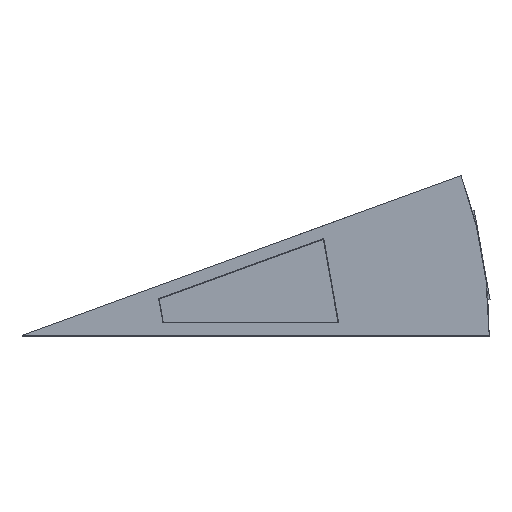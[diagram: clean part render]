
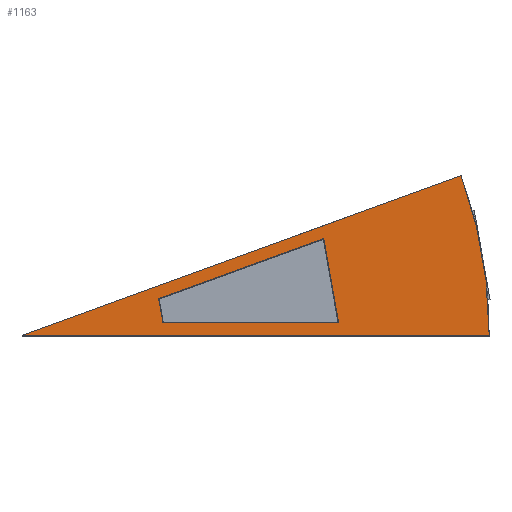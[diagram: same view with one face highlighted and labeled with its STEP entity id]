
A CAD part, top view. The second image highlights one B-rep face of the part: STEP entity #1163.
In plain terms, the highlighted planar face has unit normal (0, 0, 1).
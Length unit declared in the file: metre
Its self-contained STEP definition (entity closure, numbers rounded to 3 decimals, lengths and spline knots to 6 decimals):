
#103 = PLANE('',#104);
#104 = AXIS2_PLACEMENT_3D('',#105,#106,#107);
#105 = CARTESIAN_POINT('',(0.,0.,
    -4.137525));
#106 = DIRECTION('',(-0.,-1.,-0.));
#107 = DIRECTION('',(0.,0.,-1.));
#129 = PLANE('',#130);
#130 = AXIS2_PLACEMENT_3D('',#131,#132,#133);
#131 = CARTESIAN_POINT('',(0.,0.,
    -4.137525));
#132 = DIRECTION('',(0.342,-0.94,-0.));
#133 = DIRECTION('',(0.,0.,-1.));
#247 = VERTEX_POINT('',#248);
#248 = CARTESIAN_POINT('',(21.613469,0.,
    13.620089));
#262 = CYLINDRICAL_SURFACE('',#263,21.613469);
#263 = AXIS2_PLACEMENT_3D('',#264,#265,#266);
#264 = CARTESIAN_POINT('',(0.,0.,-15.6));
#265 = DIRECTION('',(0.,0.,1.));
#266 = DIRECTION('',(1.,0.,-0.));
#274 = EDGE_CURVE('',#247,#275,#277,.T.);
#275 = VERTEX_POINT('',#276);
#276 = CARTESIAN_POINT('',(0.,0.,13.620089));
#277 = SURFACE_CURVE('',#278,(#282,#289),.PCURVE_S1.);
#278 = LINE('',#279,#280);
#279 = CARTESIAN_POINT('',(19.313469,0.,
    13.620089));
#280 = VECTOR('',#281,1.);
#281 = DIRECTION('',(-1.,0.,0.));
#282 = PCURVE('',#103,#283);
#283 = DEFINITIONAL_REPRESENTATION('',(#284),#288);
#284 = LINE('',#285,#286);
#285 = CARTESIAN_POINT('',(-17.758,19.313));
#286 = VECTOR('',#287,1.);
#287 = DIRECTION('',(0.,-1.));
#288 = ( GEOMETRIC_REPRESENTATION_CONTEXT(2) 
PARAMETRIC_REPRESENTATION_CONTEXT() REPRESENTATION_CONTEXT('2D SPACE',''
  ) );
#289 = PCURVE('',#290,#295);
#290 = PLANE('',#291);
#291 = AXIS2_PLACEMENT_3D('',#292,#293,#294);
#292 = CARTESIAN_POINT('',(0.,0.,13.620089));
#293 = DIRECTION('',(0.,0.,1.));
#294 = DIRECTION('',(1.,0.,-0.));
#295 = DEFINITIONAL_REPRESENTATION('',(#296),#300);
#296 = LINE('',#297,#298);
#297 = CARTESIAN_POINT('',(19.313,0.));
#298 = VECTOR('',#299,1.);
#299 = DIRECTION('',(-1.,0.));
#300 = ( GEOMETRIC_REPRESENTATION_CONTEXT(2) 
PARAMETRIC_REPRESENTATION_CONTEXT() REPRESENTATION_CONTEXT('2D SPACE',''
  ) );
#515 = VERTEX_POINT('',#516);
#516 = CARTESIAN_POINT('',(20.310017,7.392242,
    13.620089));
#537 = EDGE_CURVE('',#515,#275,#538,.T.);
#538 = SURFACE_CURVE('',#539,(#543,#550),.PCURVE_S1.);
#539 = LINE('',#540,#541);
#540 = CARTESIAN_POINT('',(18.148724,6.605595,
    13.620089));
#541 = VECTOR('',#542,1.);
#542 = DIRECTION('',(-0.94,-0.342,0.));
#543 = PCURVE('',#129,#544);
#544 = DEFINITIONAL_REPRESENTATION('',(#545),#549);
#545 = LINE('',#546,#547);
#546 = CARTESIAN_POINT('',(-17.758,19.313));
#547 = VECTOR('',#548,1.);
#548 = DIRECTION('',(0.,-1.));
#549 = ( GEOMETRIC_REPRESENTATION_CONTEXT(2) 
PARAMETRIC_REPRESENTATION_CONTEXT() REPRESENTATION_CONTEXT('2D SPACE',''
  ) );
#550 = PCURVE('',#290,#551);
#551 = DEFINITIONAL_REPRESENTATION('',(#552),#556);
#552 = LINE('',#553,#554);
#553 = CARTESIAN_POINT('',(18.149,6.606));
#554 = VECTOR('',#555,1.);
#555 = DIRECTION('',(-0.94,-0.342));
#556 = ( GEOMETRIC_REPRESENTATION_CONTEXT(2) 
PARAMETRIC_REPRESENTATION_CONTEXT() REPRESENTATION_CONTEXT('2D SPACE',''
  ) );
#1163 = ADVANCED_FACE('',(#1164,#1190),#290,.T.);
#1164 = FACE_BOUND('',#1165,.T.);
#1165 = EDGE_LOOP('',(#1166,#1188,#1189));
#1166 = ORIENTED_EDGE('',*,*,#1167,.T.);
#1167 = EDGE_CURVE('',#247,#515,#1168,.T.);
#1168 = SURFACE_CURVE('',#1169,(#1174,#1181),.PCURVE_S1.);
#1169 = CIRCLE('',#1170,21.613469);
#1170 = AXIS2_PLACEMENT_3D('',#1171,#1172,#1173);
#1171 = CARTESIAN_POINT('',(0.,0.,13.620089));
#1172 = DIRECTION('',(0.,0.,1.));
#1173 = DIRECTION('',(1.,0.,-0.));
#1174 = PCURVE('',#290,#1175);
#1175 = DEFINITIONAL_REPRESENTATION('',(#1176),#1180);
#1176 = CIRCLE('',#1177,21.613469);
#1177 = AXIS2_PLACEMENT_2D('',#1178,#1179);
#1178 = CARTESIAN_POINT('',(0.,0.));
#1179 = DIRECTION('',(1.,0.));
#1180 = ( GEOMETRIC_REPRESENTATION_CONTEXT(2) 
PARAMETRIC_REPRESENTATION_CONTEXT() REPRESENTATION_CONTEXT('2D SPACE',''
  ) );
#1181 = PCURVE('',#262,#1182);
#1182 = DEFINITIONAL_REPRESENTATION('',(#1183),#1187);
#1183 = LINE('',#1184,#1185);
#1184 = CARTESIAN_POINT('',(0.,29.22));
#1185 = VECTOR('',#1186,1.);
#1186 = DIRECTION('',(1.,0.));
#1187 = ( GEOMETRIC_REPRESENTATION_CONTEXT(2) 
PARAMETRIC_REPRESENTATION_CONTEXT() REPRESENTATION_CONTEXT('2D SPACE',''
  ) );
#1188 = ORIENTED_EDGE('',*,*,#537,.T.);
#1189 = ORIENTED_EDGE('',*,*,#274,.F.);
#1190 = FACE_BOUND('',#1191,.T.);
#1191 = EDGE_LOOP('',(#1192,#1222,#1250,#1278));
#1192 = ORIENTED_EDGE('',*,*,#1193,.F.);
#1193 = EDGE_CURVE('',#1194,#1196,#1198,.T.);
#1194 = VERTEX_POINT('',#1195);
#1195 = CARTESIAN_POINT('',(6.517606,0.5741,13.620089));
#1196 = VERTEX_POINT('',#1197);
#1197 = CARTESIAN_POINT('',(14.64659,0.5741,13.620089));
#1198 = SURFACE_CURVE('',#1199,(#1203,#1210),.PCURVE_S1.);
#1199 = LINE('',#1200,#1201);
#1200 = CARTESIAN_POINT('',(7.042043,0.5741,13.620089));
#1201 = VECTOR('',#1202,1.);
#1202 = DIRECTION('',(1.,0.,0.));
#1203 = PCURVE('',#290,#1204);
#1204 = DEFINITIONAL_REPRESENTATION('',(#1205),#1209);
#1205 = LINE('',#1206,#1207);
#1206 = CARTESIAN_POINT('',(7.042,0.574));
#1207 = VECTOR('',#1208,1.);
#1208 = DIRECTION('',(1.,0.));
#1209 = ( GEOMETRIC_REPRESENTATION_CONTEXT(2) 
PARAMETRIC_REPRESENTATION_CONTEXT() REPRESENTATION_CONTEXT('2D SPACE',''
  ) );
#1210 = PCURVE('',#1211,#1216);
#1211 = PLANE('',#1212);
#1212 = AXIS2_PLACEMENT_3D('',#1213,#1214,#1215);
#1213 = CARTESIAN_POINT('',(6.517606,0.5741,13.220089));
#1214 = DIRECTION('',(0.,1.,0.));
#1215 = DIRECTION('',(1.,0.,0.));
#1216 = DEFINITIONAL_REPRESENTATION('',(#1217),#1221);
#1217 = LINE('',#1218,#1219);
#1218 = CARTESIAN_POINT('',(0.524,-0.4));
#1219 = VECTOR('',#1220,1.);
#1220 = DIRECTION('',(1.,0.));
#1221 = ( GEOMETRIC_REPRESENTATION_CONTEXT(2) 
PARAMETRIC_REPRESENTATION_CONTEXT() REPRESENTATION_CONTEXT('2D SPACE',''
  ) );
#1222 = ORIENTED_EDGE('',*,*,#1223,.F.);
#1223 = EDGE_CURVE('',#1224,#1194,#1226,.T.);
#1224 = VERTEX_POINT('',#1225);
#1225 = CARTESIAN_POINT('',(6.3209,1.689675,13.620089
    ));
#1226 = SURFACE_CURVE('',#1227,(#1231,#1238),.PCURVE_S1.);
#1227 = LINE('',#1228,#1229);
#1228 = CARTESIAN_POINT('',(6.411967,1.173205,
    13.620089));
#1229 = VECTOR('',#1230,1.);
#1230 = DIRECTION('',(0.174,-0.985,0.));
#1231 = PCURVE('',#290,#1232);
#1232 = DEFINITIONAL_REPRESENTATION('',(#1233),#1237);
#1233 = LINE('',#1234,#1235);
#1234 = CARTESIAN_POINT('',(6.412,1.173));
#1235 = VECTOR('',#1236,1.);
#1236 = DIRECTION('',(0.174,-0.985));
#1237 = ( GEOMETRIC_REPRESENTATION_CONTEXT(2) 
PARAMETRIC_REPRESENTATION_CONTEXT() REPRESENTATION_CONTEXT('2D SPACE',''
  ) );
#1238 = PCURVE('',#1239,#1244);
#1239 = PLANE('',#1240);
#1240 = AXIS2_PLACEMENT_3D('',#1241,#1242,#1243);
#1241 = CARTESIAN_POINT('',(6.3209,1.689675,13.220089
    ));
#1242 = DIRECTION('',(0.985,0.174,0.));
#1243 = DIRECTION('',(0.174,-0.985,0.));
#1244 = DEFINITIONAL_REPRESENTATION('',(#1245),#1249);
#1245 = LINE('',#1246,#1247);
#1246 = CARTESIAN_POINT('',(0.524,-0.4));
#1247 = VECTOR('',#1248,1.);
#1248 = DIRECTION('',(1.,0.));
#1249 = ( GEOMETRIC_REPRESENTATION_CONTEXT(2) 
PARAMETRIC_REPRESENTATION_CONTEXT() REPRESENTATION_CONTEXT('2D SPACE',''
  ) );
#1250 = ORIENTED_EDGE('',*,*,#1251,.F.);
#1251 = EDGE_CURVE('',#1252,#1224,#1254,.T.);
#1252 = VERTEX_POINT('',#1253);
#1253 = CARTESIAN_POINT('',(13.959646,4.469951,
    13.620089));
#1254 = SURFACE_CURVE('',#1255,(#1259,#1266),.PCURVE_S1.);
#1255 = LINE('',#1256,#1257);
#1256 = CARTESIAN_POINT('',(13.25972,4.215199,
    13.620089));
#1257 = VECTOR('',#1258,1.);
#1258 = DIRECTION('',(-0.94,-0.342,0.));
#1259 = PCURVE('',#290,#1260);
#1260 = DEFINITIONAL_REPRESENTATION('',(#1261),#1265);
#1261 = LINE('',#1262,#1263);
#1262 = CARTESIAN_POINT('',(13.26,4.215));
#1263 = VECTOR('',#1264,1.);
#1264 = DIRECTION('',(-0.94,-0.342));
#1265 = ( GEOMETRIC_REPRESENTATION_CONTEXT(2) 
PARAMETRIC_REPRESENTATION_CONTEXT() REPRESENTATION_CONTEXT('2D SPACE',''
  ) );
#1266 = PCURVE('',#1267,#1272);
#1267 = PLANE('',#1268);
#1268 = AXIS2_PLACEMENT_3D('',#1269,#1270,#1271);
#1269 = CARTESIAN_POINT('',(13.959646,4.469951,
    13.220089));
#1270 = DIRECTION('',(0.342,-0.94,0.));
#1271 = DIRECTION('',(-0.94,-0.342,0.));
#1272 = DEFINITIONAL_REPRESENTATION('',(#1273),#1277);
#1273 = LINE('',#1274,#1275);
#1274 = CARTESIAN_POINT('',(0.745,-0.4));
#1275 = VECTOR('',#1276,1.);
#1276 = DIRECTION('',(1.,0.));
#1277 = ( GEOMETRIC_REPRESENTATION_CONTEXT(2) 
PARAMETRIC_REPRESENTATION_CONTEXT() REPRESENTATION_CONTEXT('2D SPACE',''
  ) );
#1278 = ORIENTED_EDGE('',*,*,#1279,.F.);
#1279 = EDGE_CURVE('',#1196,#1252,#1280,.T.);
#1280 = SURFACE_CURVE('',#1281,(#1285,#1292),.PCURVE_S1.);
#1281 = LINE('',#1282,#1283);
#1282 = CARTESIAN_POINT('',(14.517249,1.30763,
    13.620089));
#1283 = VECTOR('',#1284,1.);
#1284 = DIRECTION('',(-0.174,0.985,0.));
#1285 = PCURVE('',#290,#1286);
#1286 = DEFINITIONAL_REPRESENTATION('',(#1287),#1291);
#1287 = LINE('',#1288,#1289);
#1288 = CARTESIAN_POINT('',(14.517,1.308));
#1289 = VECTOR('',#1290,1.);
#1290 = DIRECTION('',(-0.174,0.985));
#1291 = ( GEOMETRIC_REPRESENTATION_CONTEXT(2) 
PARAMETRIC_REPRESENTATION_CONTEXT() REPRESENTATION_CONTEXT('2D SPACE',''
  ) );
#1292 = PCURVE('',#1293,#1298);
#1293 = PLANE('',#1294);
#1294 = AXIS2_PLACEMENT_3D('',#1295,#1296,#1297);
#1295 = CARTESIAN_POINT('',(14.64659,0.5741,13.220089));
#1296 = DIRECTION('',(-0.985,-0.174,0.));
#1297 = DIRECTION('',(-0.174,0.985,0.));
#1298 = DEFINITIONAL_REPRESENTATION('',(#1299),#1303);
#1299 = LINE('',#1300,#1301);
#1300 = CARTESIAN_POINT('',(0.745,-0.4));
#1301 = VECTOR('',#1302,1.);
#1302 = DIRECTION('',(1.,0.));
#1303 = ( GEOMETRIC_REPRESENTATION_CONTEXT(2) 
PARAMETRIC_REPRESENTATION_CONTEXT() REPRESENTATION_CONTEXT('2D SPACE',''
  ) );
